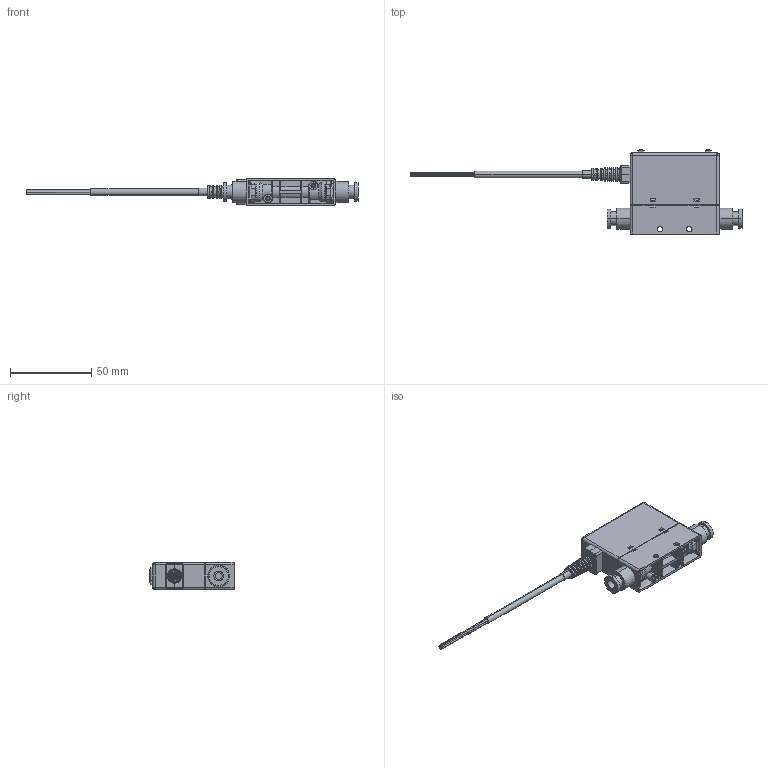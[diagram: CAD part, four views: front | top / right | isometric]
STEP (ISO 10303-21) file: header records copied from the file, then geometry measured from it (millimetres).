
FILE_DESCRIPTION (( 'STEP AP203' ), '1' );
FILE_NAME ('NFP01-R6.STEP', '2021-11-25T06:44:57', ( 'charles' ), ( '' ), 'SwSTEP 2.0', 'SolidWorks 2012', '' );
FILE_SCHEMA (( 'CONFIG_CONTROL_DESIGN' ));
Length unit declared in the file: millimetre
Products named in the file (3): NFP01-R6; CN-0075A-01-A1_SW0001; NFP01-R6_SW0001
Assembly tree (2 placements, depth 2):
  NFP01-R6
    NFP01-R6_SW0001
    CN-0075A-01-A1_SW0001
Bounding box: 204.6 x 51.85 x 17 mm (x, y, z)
Volume: 48117.2 mm3; surface area: 18526.2 mm2
Topology: 3 solids, 3 shells, 1048 faces, 2910 edges, 1855 vertices
Faces by surface type: plane 617, cylinder 274, bspline 86, cone 65, torus 6
Entity records: 37225 total; most frequent: CARTESIAN_POINT 11201, ORIENTED_EDGE 5786, DIRECTION 4900, EDGE_CURVE 2893, LINE 1902, VECTOR 1902, VERTEX_POINT 1855, AXIS2_PLACEMENT_3D 1499
